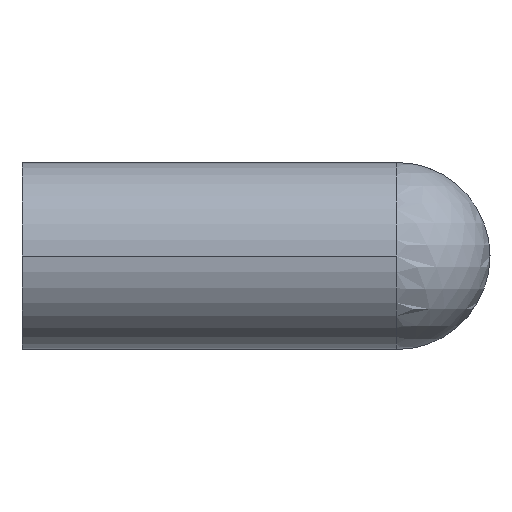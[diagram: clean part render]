
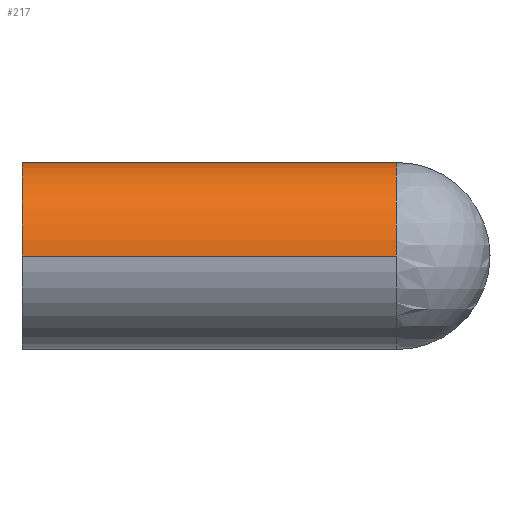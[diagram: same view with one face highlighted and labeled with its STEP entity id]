
A CAD part, left-side view. The second image highlights one B-rep face of the part: STEP entity #217.
In plain terms, the highlighted cylindrical face has radius 6 mm (diameter 12 mm), a partial arc.
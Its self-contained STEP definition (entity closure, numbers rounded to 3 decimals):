
#103 = VERTEX_POINT( '', #259 );
#107 = EDGE_CURVE( '', #205, #103, #263, .T. );
#125 = VERTEX_POINT( '', #285 );
#133 = VERTEX_POINT( '', #293 );
#141 = EDGE_CURVE( '', #145, #103, #301, .T. );
#145 = VERTEX_POINT( '', #306 );
#201 = EDGE_CURVE( '', #125, #205, #368, .T. );
#205 = VERTEX_POINT( '', #373 );
#213 = EDGE_CURVE( '', #133, #125, #381, .T. );
#217 = ADVANCED_FACE( '', ( #386 ), #387, .T. );
#223 = EDGE_CURVE( '', #133, #145, #394, .T. );
#259 = CARTESIAN_POINT( '', ( 6., -18., 0. ) );
#263 = LINE( '', #429, #430 );
#285 = CARTESIAN_POINT( '', ( -6., 0., 0. ) );
#293 = CARTESIAN_POINT( '', ( -6., -24., 0. ) );
#301 = ELLIPSE( '', #475, 8.485, 6. );
#306 = CARTESIAN_POINT( '', ( 0., -24., 6. ) );
#368 = CIRCLE( '', #559, 6. );
#373 = CARTESIAN_POINT( '', ( 6., 0., 0. ) );
#381 = LINE( '', #578, #579 );
#386 = FACE_OUTER_BOUND( '', #584, .T. );
#387 = CYLINDRICAL_SURFACE( '', #585, 6. );
#394 = CIRCLE( '', #595, 6. );
#429 = CARTESIAN_POINT( '', ( 6., 0., 0. ) );
#430 = VECTOR( '', #625, 1. );
#475 = AXIS2_PLACEMENT_3D( '', #672, #673, #674 );
#559 = AXIS2_PLACEMENT_3D( '', #751, #752, #753 );
#578 = CARTESIAN_POINT( '', ( -6., 0., 0. ) );
#579 = VECTOR( '', #767, 1. );
#584 = EDGE_LOOP( '', ( #777, #778, #779, #780, #781 ) );
#585 = AXIS2_PLACEMENT_3D( '', #782, #783, #784 );
#595 = AXIS2_PLACEMENT_3D( '', #795, #796, #797 );
#625 = DIRECTION( '', ( 0., -1., 0. ) );
#672 = CARTESIAN_POINT( '', ( 0., -24., 0. ) );
#673 = DIRECTION( '', ( -0.707, 0.707, 0. ) );
#674 = DIRECTION( '', ( 0.707, 0.707, 0. ) );
#751 = CARTESIAN_POINT( '', ( 0., 0., 0. ) );
#752 = DIRECTION( '', ( 0., 1., 0. ) );
#753 = DIRECTION( '', ( 1., 0., 0. ) );
#767 = DIRECTION( '', ( 0., 1., 0. ) );
#777 = ORIENTED_EDGE( '', *, *, #107, .F. );
#778 = ORIENTED_EDGE( '', *, *, #201, .F. );
#779 = ORIENTED_EDGE( '', *, *, #213, .F. );
#780 = ORIENTED_EDGE( '', *, *, #223, .T. );
#781 = ORIENTED_EDGE( '', *, *, #141, .T. );
#782 = CARTESIAN_POINT( '', ( 0., 0., 0. ) );
#783 = DIRECTION( '', ( 0., 1., 0. ) );
#784 = DIRECTION( '', ( 1., 0., 0. ) );
#795 = CARTESIAN_POINT( '', ( 0., -24., 0. ) );
#796 = DIRECTION( '', ( 0., 1., 0. ) );
#797 = DIRECTION( '', ( 1., 0., 0. ) );
